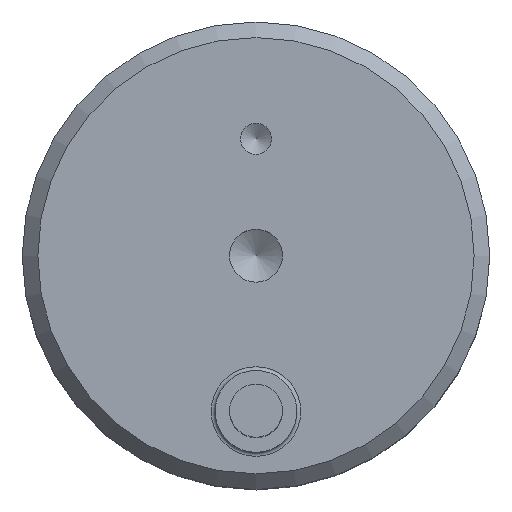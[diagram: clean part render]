
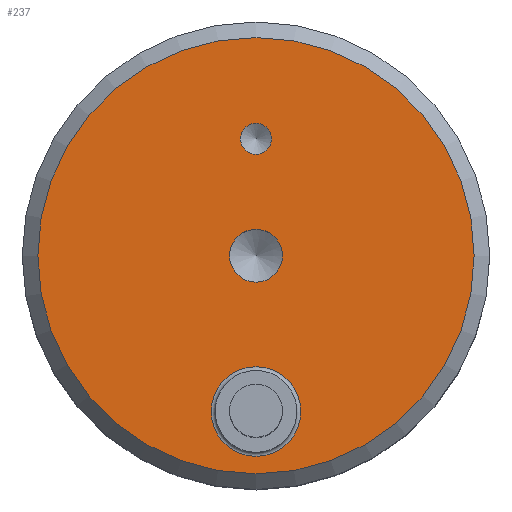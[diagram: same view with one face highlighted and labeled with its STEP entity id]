
A CAD part, top view. The second image highlights one B-rep face of the part: STEP entity #237.
In plain terms, the highlighted planar face has unit normal (0, 0, 1).
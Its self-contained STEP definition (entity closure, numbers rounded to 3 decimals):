
#33=FACE_BOUND('',#93,.T.);
#34=FACE_BOUND('',#94,.T.);
#35=FACE_BOUND('',#95,.T.);
#38=PLANE('',#286);
#74=FACE_OUTER_BOUND('',#92,.T.);
#92=EDGE_LOOP('',(#186));
#93=EDGE_LOOP('',(#187));
#94=EDGE_LOOP('',(#188));
#95=EDGE_LOOP('',(#189));
#115=CIRCLE('',#283,5.75);
#117=CIRCLE('',#287,28.);
#118=CIRCLE('',#288,3.39);
#119=CIRCLE('',#289,2.);
#132=VERTEX_POINT('',#416);
#134=VERTEX_POINT('',#424);
#135=VERTEX_POINT('',#426);
#136=VERTEX_POINT('',#428);
#152=EDGE_CURVE('',#132,#132,#115,.T.);
#155=EDGE_CURVE('',#134,#134,#117,.T.);
#156=EDGE_CURVE('',#135,#135,#118,.T.);
#157=EDGE_CURVE('',#136,#136,#119,.T.);
#186=ORIENTED_EDGE('',*,*,#155,.F.);
#187=ORIENTED_EDGE('',*,*,#156,.T.);
#188=ORIENTED_EDGE('',*,*,#157,.T.);
#189=ORIENTED_EDGE('',*,*,#152,.F.);
#237=ADVANCED_FACE('',(#74,#33,#34,#35),#38,.T.);
#283=AXIS2_PLACEMENT_3D('',#418,#329,#330);
#286=AXIS2_PLACEMENT_3D('',#423,#336,#337);
#287=AXIS2_PLACEMENT_3D('',#425,#338,#339);
#288=AXIS2_PLACEMENT_3D('',#427,#340,#341);
#289=AXIS2_PLACEMENT_3D('',#429,#342,#343);
#329=DIRECTION('center_axis',(0.,0.,1.));
#330=DIRECTION('ref_axis',(-1.,0.,0.));
#336=DIRECTION('center_axis',(0.,0.,1.));
#337=DIRECTION('ref_axis',(1.,0.,0.));
#338=DIRECTION('center_axis',(0.,0.,-1.));
#339=DIRECTION('ref_axis',(-1.,0.,0.));
#340=DIRECTION('center_axis',(0.,0.,-1.));
#341=DIRECTION('ref_axis',(1.,0.,0.));
#342=DIRECTION('center_axis',(0.,0.,-1.));
#343=DIRECTION('ref_axis',(1.,0.,0.));
#416=CARTESIAN_POINT('',(5.75,-20.,40.));
#418=CARTESIAN_POINT('Origin',(0.,-20.,40.));
#423=CARTESIAN_POINT('Origin',(0.,0.,40.));
#424=CARTESIAN_POINT('',(28.,0.,40.));
#425=CARTESIAN_POINT('Origin',(0.,0.,40.));
#426=CARTESIAN_POINT('',(-3.39,0.,40.));
#427=CARTESIAN_POINT('Origin',(0.,0.,40.));
#428=CARTESIAN_POINT('',(-2.,15.,40.));
#429=CARTESIAN_POINT('Origin',(0.,15.,40.));
